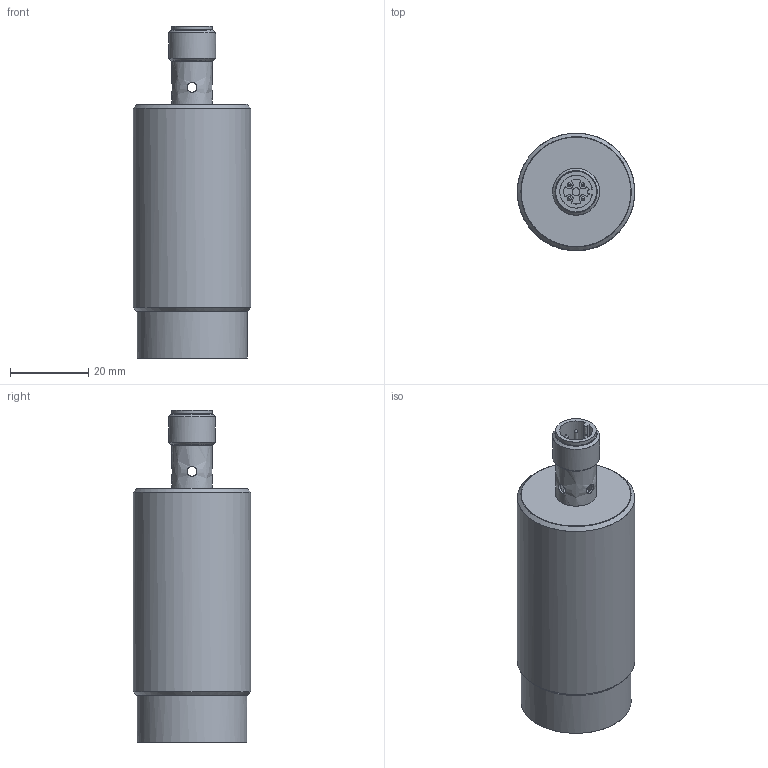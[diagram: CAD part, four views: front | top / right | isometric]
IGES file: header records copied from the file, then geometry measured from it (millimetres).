
Global section: file name: D:\dd\DSD-0313.igs; preprocessor: I-DEAS 3D IGES Translator 13; date: 20100121.161324; units: millimetre
Bounding box: 29.96 x 29.97 x 84.8 mm (x, y, z)
Surface area: 14033.7 mm2
Topology: 4 solids, 4 shells, 79 faces, 514 edges, 452 vertices
Faces by surface type: bspline 79
